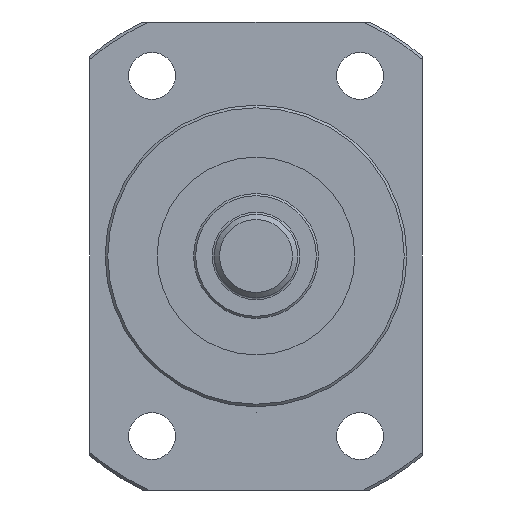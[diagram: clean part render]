
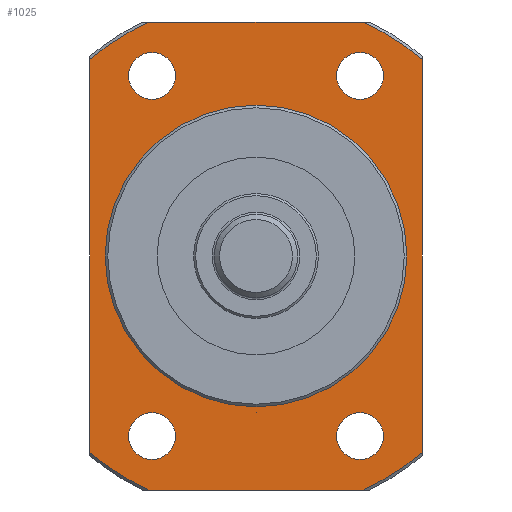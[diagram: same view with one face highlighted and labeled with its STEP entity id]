
A CAD part, left-side view. The second image highlights one B-rep face of the part: STEP entity #1025.
In plain terms, the highlighted planar face has unit normal (-1, 0, 0).
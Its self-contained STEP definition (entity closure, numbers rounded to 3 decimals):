
#117=LINE('',#1884,#141);
#118=LINE('',#1885,#142);
#119=LINE('',#1886,#143);
#120=LINE('',#1887,#144);
#141=VECTOR('',#1469,1000.);
#142=VECTOR('',#1470,1000.);
#143=VECTOR('',#1471,1000.);
#144=VECTOR('',#1472,1000.);
#286=ORIENTED_EDGE('',*,*,#474,.T.);
#287=ORIENTED_EDGE('',*,*,#475,.T.);
#288=ORIENTED_EDGE('',*,*,#476,.T.);
#289=ORIENTED_EDGE('',*,*,#477,.T.);
#290=ORIENTED_EDGE('',*,*,#478,.T.);
#291=ORIENTED_EDGE('',*,*,#463,.F.);
#292=ORIENTED_EDGE('',*,*,#479,.T.);
#293=ORIENTED_EDGE('',*,*,#465,.F.);
#294=ORIENTED_EDGE('',*,*,#480,.T.);
#295=ORIENTED_EDGE('',*,*,#469,.F.);
#296=ORIENTED_EDGE('',*,*,#481,.T.);
#297=ORIENTED_EDGE('',*,*,#471,.F.);
#298=ORIENTED_EDGE('',*,*,#482,.T.);
#463=EDGE_CURVE('',#567,#568,#647,.T.);
#465=EDGE_CURVE('',#569,#570,#648,.T.);
#469=EDGE_CURVE('',#571,#572,#649,.T.);
#471=EDGE_CURVE('',#573,#574,#650,.T.);
#474=EDGE_CURVE('',#575,#575,#651,.T.);
#475=EDGE_CURVE('',#576,#576,#652,.T.);
#476=EDGE_CURVE('',#577,#577,#653,.T.);
#477=EDGE_CURVE('',#578,#578,#654,.T.);
#478=EDGE_CURVE('',#579,#579,#655,.T.);
#479=EDGE_CURVE('',#567,#570,#117,.T.);
#480=EDGE_CURVE('',#569,#572,#118,.T.);
#481=EDGE_CURVE('',#571,#574,#119,.T.);
#482=EDGE_CURVE('',#573,#568,#120,.T.);
#567=VERTEX_POINT('',#1830);
#568=VERTEX_POINT('',#1832);
#569=VERTEX_POINT('',#1839);
#570=VERTEX_POINT('',#1840);
#571=VERTEX_POINT('',#1854);
#572=VERTEX_POINT('',#1856);
#573=VERTEX_POINT('',#1863);
#574=VERTEX_POINT('',#1864);
#575=VERTEX_POINT('',#1875);
#576=VERTEX_POINT('',#1877);
#577=VERTEX_POINT('',#1879);
#578=VERTEX_POINT('',#1881);
#579=VERTEX_POINT('',#1883);
#647=CIRCLE('',#1175,24.75);
#648=CIRCLE('',#1177,24.75);
#649=CIRCLE('',#1179,24.75);
#650=CIRCLE('',#1181,24.75);
#651=CIRCLE('',#1183,14.2);
#652=CIRCLE('',#1184,2.25);
#653=CIRCLE('',#1185,2.25);
#654=CIRCLE('',#1186,2.25);
#655=CIRCLE('',#1187,2.25);
#751=EDGE_LOOP('',(#286));
#752=EDGE_LOOP('',(#287));
#753=EDGE_LOOP('',(#288));
#754=EDGE_LOOP('',(#289));
#755=EDGE_LOOP('',(#290));
#756=EDGE_LOOP('',(#291,#292,#293,#294,#295,#296,#297,#298));
#890=FACE_BOUND('',#751,.T.);
#891=FACE_BOUND('',#752,.T.);
#892=FACE_BOUND('',#753,.T.);
#893=FACE_BOUND('',#754,.T.);
#894=FACE_BOUND('',#755,.T.);
#895=FACE_BOUND('',#756,.T.);
#965=PLANE('',#1182);
#1025=ADVANCED_FACE('',(#890,#891,#892,#893,#894,#895),#965,.T.);
#1175=AXIS2_PLACEMENT_3D('',#1831,#1443,#1444);
#1177=AXIS2_PLACEMENT_3D('',#1838,#1447,#1448);
#1179=AXIS2_PLACEMENT_3D('',#1855,#1451,#1452);
#1181=AXIS2_PLACEMENT_3D('',#1862,#1455,#1456);
#1182=AXIS2_PLACEMENT_3D('',#1873,#1457,#1458);
#1183=AXIS2_PLACEMENT_3D('',#1874,#1459,#1460);
#1184=AXIS2_PLACEMENT_3D('',#1876,#1461,#1462);
#1185=AXIS2_PLACEMENT_3D('',#1878,#1463,#1464);
#1186=AXIS2_PLACEMENT_3D('',#1880,#1465,#1466);
#1187=AXIS2_PLACEMENT_3D('',#1882,#1467,#1468);
#1443=DIRECTION('',(1.,0.,0.));
#1444=DIRECTION('',(0.,0.,-1.));
#1447=DIRECTION('',(1.,0.,0.));
#1448=DIRECTION('',(0.,0.,-1.));
#1451=DIRECTION('',(1.,0.,0.));
#1452=DIRECTION('',(0.,0.,-1.));
#1455=DIRECTION('',(1.,0.,0.));
#1456=DIRECTION('',(0.,0.,-1.));
#1457=DIRECTION('',(-1.,0.,0.));
#1458=DIRECTION('',(0.,0.,1.));
#1459=DIRECTION('',(1.,0.,0.));
#1460=DIRECTION('',(0.,0.,-1.));
#1461=DIRECTION('',(1.,0.,0.));
#1462=DIRECTION('',(0.,0.,-1.));
#1463=DIRECTION('',(1.,0.,0.));
#1464=DIRECTION('',(0.,0.,-1.));
#1465=DIRECTION('',(1.,0.,0.));
#1466=DIRECTION('',(0.,0.,-1.));
#1467=DIRECTION('',(1.,0.,0.));
#1468=DIRECTION('',(0.,0.,-1.));
#1469=DIRECTION('',(0.,1.,0.));
#1470=DIRECTION('',(0.,0.,-1.));
#1471=DIRECTION('',(0.,-1.,0.));
#1472=DIRECTION('',(0.,0.,1.));
#1830=CARTESIAN_POINT('',(36.,-10.311,22.5));
#1831=CARTESIAN_POINT('',(36.,0.,0.));
#1832=CARTESIAN_POINT('',(36.,-16.,18.883));
#1838=CARTESIAN_POINT('',(36.,0.,0.));
#1839=CARTESIAN_POINT('',(36.,16.,18.883));
#1840=CARTESIAN_POINT('',(36.,10.311,22.5));
#1854=CARTESIAN_POINT('',(36.,10.311,-22.5));
#1855=CARTESIAN_POINT('',(36.,0.,0.));
#1856=CARTESIAN_POINT('',(36.,16.,-18.883));
#1862=CARTESIAN_POINT('',(36.,0.,0.));
#1863=CARTESIAN_POINT('',(36.,-16.,-18.883));
#1864=CARTESIAN_POINT('',(36.,-10.311,-22.5));
#1873=CARTESIAN_POINT('',(36.,24.75,0.));
#1874=CARTESIAN_POINT('',(36.,0.,0.));
#1875=CARTESIAN_POINT('',(36.,0.,-14.2));
#1876=CARTESIAN_POINT('',(36.,10.,17.321));
#1877=CARTESIAN_POINT('',(36.,10.,15.071));
#1878=CARTESIAN_POINT('',(36.,-10.,17.321));
#1879=CARTESIAN_POINT('',(36.,-10.,15.071));
#1880=CARTESIAN_POINT('',(36.,-10.,-17.321));
#1881=CARTESIAN_POINT('',(36.,-10.,-19.571));
#1882=CARTESIAN_POINT('',(36.,10.,-17.321));
#1883=CARTESIAN_POINT('',(36.,10.,-19.571));
#1884=CARTESIAN_POINT('',(36.,24.75,22.5));
#1885=CARTESIAN_POINT('',(36.,16.,0.));
#1886=CARTESIAN_POINT('',(36.,24.75,-22.5));
#1887=CARTESIAN_POINT('',(36.,-16.,0.));
